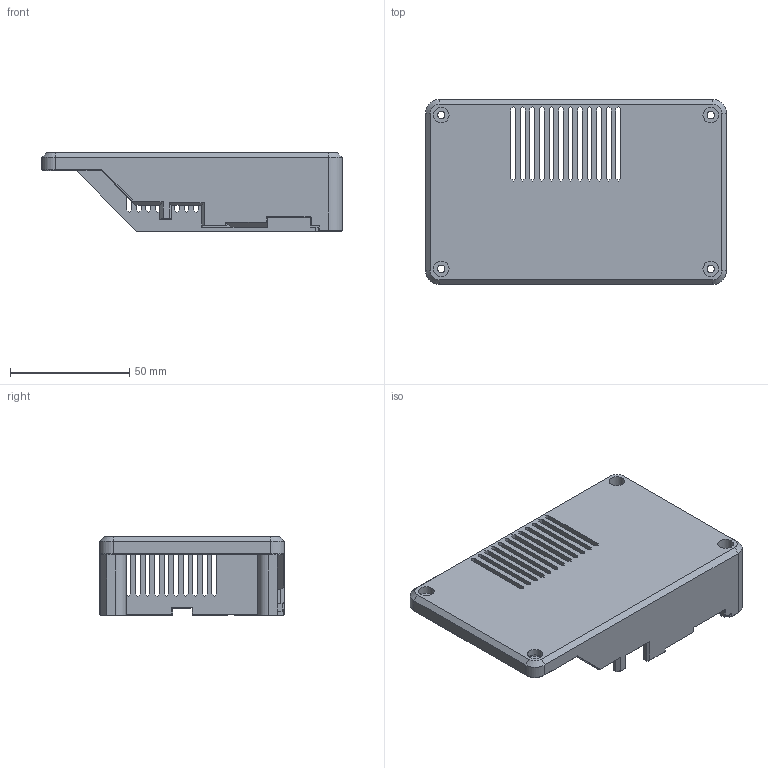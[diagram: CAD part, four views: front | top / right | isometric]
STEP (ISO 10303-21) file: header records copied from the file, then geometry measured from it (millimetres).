
FILE_DESCRIPTION(('FreeCAD Model'),'2;1');
FILE_NAME('Open CASCADE Shape Model','2024-11-17T12:02:50',(''),(''), 'Open CASCADE STEP processor 7.6','FreeCAD','Unknown');
FILE_SCHEMA(('AUTOMOTIVE_DESIGN { 1 0 10303 214 1 1 1 1 }'));
Length unit declared in the file: millimetre
Products named in the file (1): MKS DLC32 2.1 Case Body top_v2
Bounding box: 126 x 77.5 x 33 mm (x, y, z)
Volume: 48601.3 mm3; surface area: 39419.1 mm2
Topology: 1 solids, 1 shells, 343 faces, 996 edges, 629 vertices
Faces by surface type: plane 306, cylinder 30, cone 7
Full cylindrical faces by diameter (mm): 3.1 x4, 3.4 x4, 6.5 x4
Entity records: 11237 total; most frequent: ORIENTED_EDGE 1992, CARTESIAN_POINT 1969, DIRECTION 1751, EDGE_CURVE 996, LINE 929, VECTOR 929, VERTEX_POINT 629, FACE_BOUND 426
